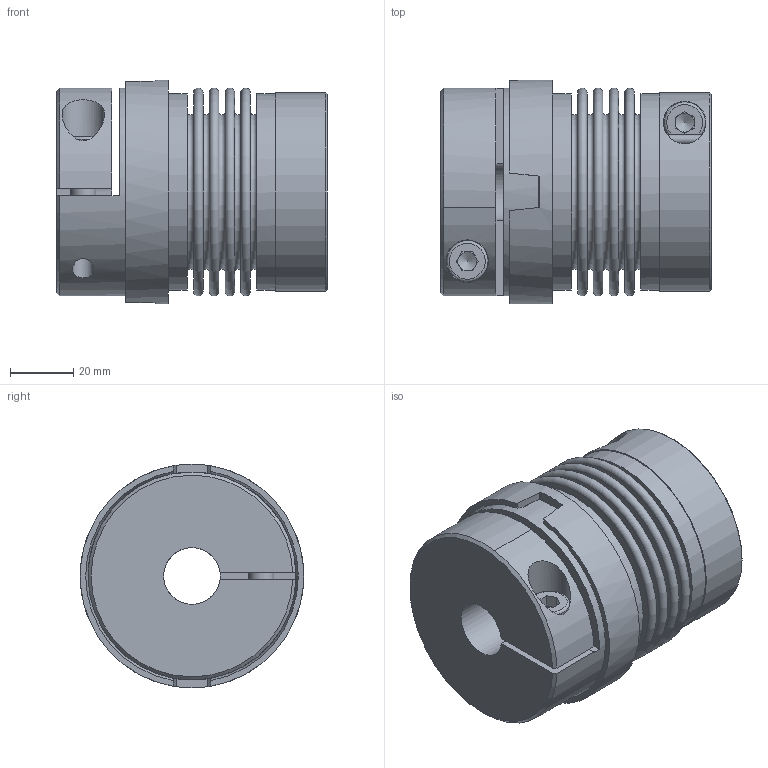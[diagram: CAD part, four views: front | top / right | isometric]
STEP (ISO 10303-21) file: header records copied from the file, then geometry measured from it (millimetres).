
FILE_DESCRIPTION( ( 'Unknown' ), '1' );
FILE_NAME( 'F:/JAKOB-STEP+IGES-Dateien/STEP-Dateien/KPP/KPP 60.stp', 'Unknown', ( 'Unknown' ), ( 'Unknown' ), 'PSStep 10.1', 'Unknown', ' ' );
FILE_SCHEMA( ( 'AUTOMOTIVE_DESIGN { 1 0 10303 214 1 1 1 1 }' ) );
Length unit declared in the file: millimetre
Products named in the file (1): KT101716
Bounding box: 86 x 71 x 71 mm (x, y, z)
Volume: 184783.2 mm3; surface area: 74218.7 mm2
Topology: 1 solids, 1 shells, 138 faces, 329 edges, 216 vertices
Faces by surface type: plane 88, cylinder 22, torus 22, cone 6
Full cylindrical faces by diameter (mm): 6.8 x2, 8 x2, 8.5 x2, 13 x2, 13.5 x2, 18 x1, 35 x1, 62.3 x2, 66 x1, 71 x1
Entity records: 5182 total; most frequent: CARTESIAN_POINT 1007, DIRECTION 682, ORIENTED_EDGE 542, AXIS2_PLACEMENT_3D 282, EDGE_CURVE 271, EDGE_LOOP 208, VERTEX_POINT 199, FACE_OUTER_BOUND 173
